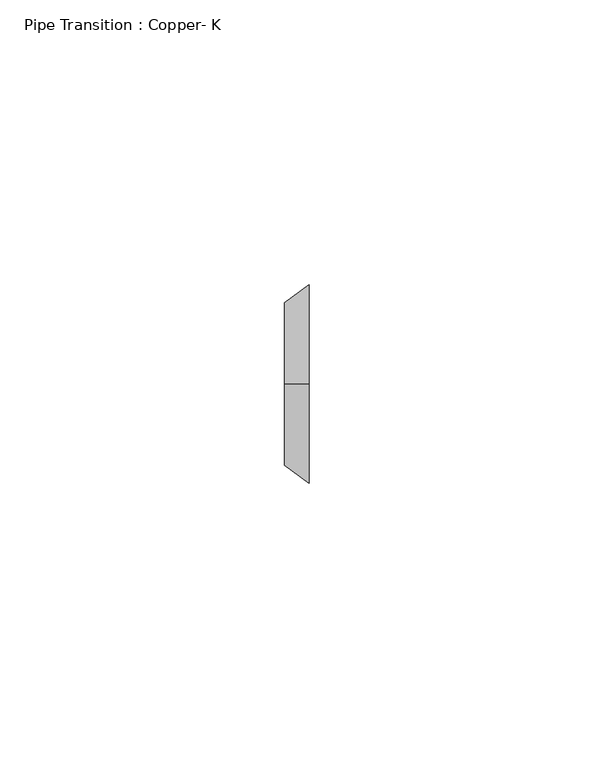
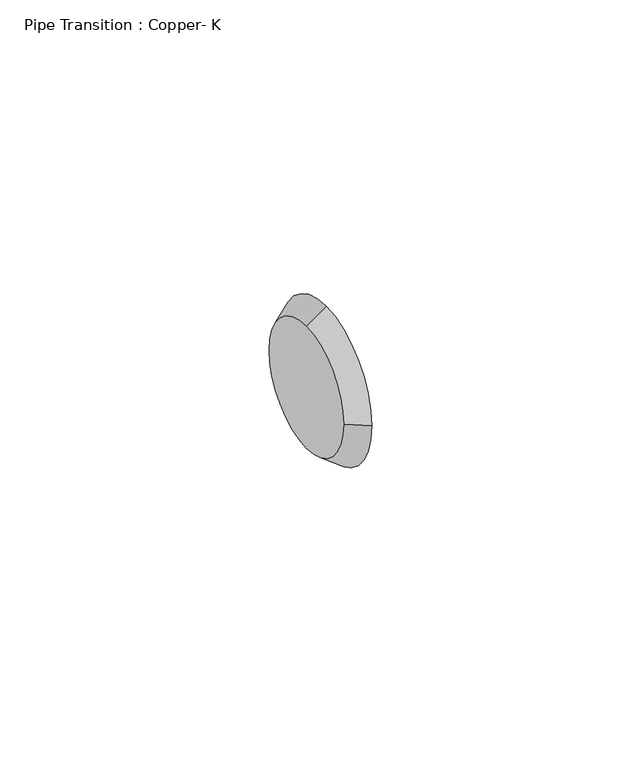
"""IFC4 building model written with IfcOpenShell, lengths in millimetres: pipe fitting geometry, Pipe Transition : Copper- K."""

import ifcopenshell
import ifcopenshell.guid

model = None  # the IFC model being written
_history = None  # IfcOwnerHistory: only IFC2X3 demands one
_inside = {}  # id of a spatial element -> (the spatial element, [elements in it])
_under = {}  # id of a project, library or spatial element -> (it, [spatial elements below it])
_declared = {}  # id of a project -> (the project, [libraries it declares])
_typed = {}  # id of a type object -> (the type object, [elements of that type])
_made_of = {}  # id of a material, layer set ... -> (it, [elements and type objects made of it])


def new_model(schema):
    """Start an empty IFC model of exactly this schema.

    Asked for "IFC4X3", IfcOpenShell would pick the latest addendum, in which some entities
    have other attributes; the version numbers below select the first issue.
    IFC2X3 requires an IfcOwnerHistory on every rooted entity: one is made here for all.
    """
    global model, _history
    if schema == "IFC4X3":
        model = ifcopenshell.file(schema_version=(4, 3, 0, 0))
    else:
        model = ifcopenshell.file(schema=schema)
    _inside.clear()
    _under.clear()
    _declared.clear()
    _typed.clear()
    _made_of.clear()
    _history = None
    if model.schema == "IFC2X3":
        org = make("IfcOrganization", Name="unknown")
        user = make(
            "IfcPersonAndOrganization",
            ThePerson=make("IfcPerson", FamilyName="unknown"),
            TheOrganization=org,
        )
        app = make(
            "IfcApplication",
            ApplicationDeveloper=org,
            Version="unknown",
            ApplicationFullName="unknown",
            ApplicationIdentifier="unknown",
        )
        _history = make(
            "IfcOwnerHistory",
            OwningUser=user,
            OwningApplication=app,
            ChangeAction="ADDED",
            CreationDate=0,
        )
    return model


def make(cls, **values):
    """One entity of the class cls with the attributes given. An attribute that is None is left unset."""
    return model.create_entity(
        cls, **{name: value for name, value in values.items() if value is not None}
    )


def rooted(cls, **values):
    """An entity with a GlobalId (a new one), such as an element, a storey or a relation."""
    return make(cls, GlobalId=ifcopenshell.guid.new(), OwnerHistory=_history, **values)


def si_unit(unit_type, name, prefix=None):
    """IfcSIUnit, for example si_unit("LENGTHUNIT", "METRE", prefix="MILLI")."""
    return make("IfcSIUnit", UnitType=unit_type, Prefix=prefix, Name=name)


def assignment(units):
    """IfcUnitAssignment: the units of a project."""
    return None if units is None else make("IfcUnitAssignment", Units=units)


def point(xyz):
    """IfcCartesianPoint."""
    return None if xyz is None else make("IfcCartesianPoint", Coordinates=xyz)


def direction(xyz):
    """IfcDirection."""
    return None if xyz is None else make("IfcDirection", DirectionRatios=xyz)


def frame(location, z_axis=None, x_axis=None):
    """IfcAxis2Placement3D, a coordinate frame: its origin and axes. An axis left out is left unset."""
    return make(
        "IfcAxis2Placement3D",
        Location=point(location),
        Axis=direction(z_axis),
        RefDirection=direction(x_axis),
    )


def origin():
    """The frame at (0, 0, 0) with its axes left unset."""
    return frame((0.0, 0.0, 0.0))


def place(relative_to, where):
    """IfcLocalPlacement: puts the frame where relative to a parent placement (None: the world)."""
    return make(
        "IfcLocalPlacement", PlacementRelTo=relative_to, RelativePlacement=where
    )


def context(
    kind, dimensions, precision=None, world=None, true_north=None, identifier=None
):
    """IfcGeometricRepresentationContext, for example the 3D "Model" context."""
    return make(
        "IfcGeometricRepresentationContext",
        ContextIdentifier=identifier,
        ContextType=kind,
        CoordinateSpaceDimension=dimensions,
        Precision=precision,
        WorldCoordinateSystem=world,
        TrueNorth=true_north,
    )


def project(units=None, contexts=None):
    """IfcProject with its units and contexts."""
    return rooted(
        "IfcProject",
        Name="project",
        RepresentationContexts=contexts,
        UnitsInContext=assignment(units),
    )


def spatial(cls, under=None, at=None, **own):
    """A site, building, storey or space (cls), placed at a placement, below another one or the project."""
    s = rooted(cls, ObjectPlacement=at, **own)
    if under is not None:
        _under.setdefault(under.id(), (under, []))[1].append(s)
    return s


def polyline(points):
    """IfcPolyline through the points."""
    return make("IfcPolyline", Points=[point(p) for p in points])


def circle_curve(where, radius):
    """IfcCircle in the frame where."""
    return make("IfcCircle", Position=where, Radius=radius)


def shape(context_of_items, identifier, shape_type, items):
    """IfcShapeRepresentation: the items that make up one representation, for example the "Body"."""
    return make(
        "IfcShapeRepresentation",
        ContextOfItems=context_of_items,
        RepresentationIdentifier=identifier,
        RepresentationType=shape_type,
        Items=items,
    )


def source(mapping_origin, context_of_items, identifier, shape_type, items):
    """IfcRepresentationMap: a shape defined once, which mapped items show again and again."""
    return make(
        "IfcRepresentationMap",
        MappingOrigin=mapping_origin,
        MappedRepresentation=shape(context_of_items, identifier, shape_type, items),
    )


def transform(
    local_origin,
    x_axis=None,
    y_axis=None,
    z_axis=None,
    scale=None,
    scale2=None,
    scale3=None,
    uniform=True,
):
    """IfcCartesianTransformationOperator3D, or its non-uniform kind. x_axis, y_axis, z_axis: its Axis1, 2, 3."""
    if uniform:
        return make(
            "IfcCartesianTransformationOperator3D",
            Axis1=direction(x_axis),
            Axis2=direction(y_axis),
            LocalOrigin=point(local_origin),
            Scale=scale,
            Axis3=direction(z_axis),
        )
    return make(
        "IfcCartesianTransformationOperator3DnonUniform",
        Axis1=direction(x_axis),
        Axis2=direction(y_axis),
        LocalOrigin=point(local_origin),
        Scale=scale,
        Axis3=direction(z_axis),
        Scale2=scale2,
        Scale3=scale3,
    )


def mapped(mapping_source, mapping_target):
    """IfcMappedItem: shows the shape of a source again, moved by a transform."""
    return make(
        "IfcMappedItem", MappingSource=mapping_source, MappingTarget=mapping_target
    )


def made_of(thing, what):
    """Note that an element or type object is made of a material, layer set ...; save() writes the relation."""
    if what is not None:
        _made_of.setdefault(what.id(), (what, []))[1].append(thing)
    return thing


def element(
    cls,
    number,
    at=None,
    inside=None,
    cuts=None,
    type_object=None,
    material=None,
    context=None,
    identifier="Body",
    shape_type=None,
    held_by="IfcProductDefinitionShape",
    body=None,
    shapes=None,
    **own,
):
    """One element of the class cls, such as IfcWall. Its Tag is "e" and its number.

    at: its placement. inside: the storey or other place that contains it. cuts: it is an
    opening in that element (IfcRelVoidsElement). A single representation is given by context,
    identifier, shape_type and body (its items); several are given by shapes. held_by: the class
    of the entity that holds the representations. save() writes the other relations.
    """
    e = rooted(cls, Tag="e%d" % number, ObjectPlacement=at, **own)
    if body is not None:
        shapes = [shape(context, identifier, shape_type, body)]
    if shapes is not None:
        e.Representation = make(held_by, Representations=shapes)
    if inside is not None:
        _inside.setdefault(inside.id(), (inside, []))[1].append(e)
    if cuts is not None:
        rooted(
            "IfcRelVoidsElement", RelatingBuildingElement=cuts, RelatedOpeningElement=e
        )
    if type_object is not None:
        _typed.setdefault(type_object.id(), (type_object, []))[1].append(e)
    return made_of(e, material)


def aggregate(whole, parts):
    """IfcRelAggregates: a whole, such as a stair, and the parts it consists of."""
    return rooted("IfcRelAggregates", RelatingObject=whole, RelatedObjects=parts)


def save(model, path):
    """Write the relations noted so far, then the file.

    IfcRelAggregates (storeys below a building ...), IfcRelContainedInSpatialStructure (elements
    in a storey), IfcRelDefinesByType, IfcRelAssociatesMaterial and IfcRelDeclares: one each for
    every whole, place, type object, material and project.
    """
    for whole, parts in _under.values():
        aggregate(whole, parts)
    for where, things in _inside.values():
        rooted(
            "IfcRelContainedInSpatialStructure",
            RelatedElements=things,
            RelatingStructure=where,
        )
    for kind, things in _typed.values():
        rooted("IfcRelDefinesByType", RelatedObjects=things, RelatingType=kind)
    for what, things in _made_of.values():
        rooted("IfcRelAssociatesMaterial", RelatedObjects=things, RelatingMaterial=what)
    for by, libraries in _declared.values():
        rooted("IfcRelDeclares", RelatingContext=by, RelatedDefinitions=libraries)
    model.write(path)


def plane_surface(at):
    """IfcPlane: the flat surface through the origin of the frame at, square to its z axis."""
    return make("IfcPlane", Position=at)


def revolved_surface(curve, axis_point, axis_direction):
    """IfcSurfaceOfRevolution: the curve turned about the line through axis_point along axis_direction."""
    return make(
        "IfcSurfaceOfRevolution",
        SweptCurve=make("IfcArbitraryOpenProfileDef", ProfileType="CURVE", Curve=curve),
        AxisPosition=make("IfcAxis1Placement", Location=point(axis_point), Axis=direction(axis_direction)),
    )


def advanced_brep(points, edges, surfaces, faces):
    """IfcAdvancedBrep: a solid bounded by faces that lie on surfaces and meet in shared edges.

    An edge is (start, end): straight between two places in points (the first is 0);
    or (start, end, curve); or (start, end, curve, False) where it runs against its curve.
    A face is (place in surfaces, loops), or (place, loops, False) where it looks against
    its surface's normal. A loop lists edges by number (the first is 1), with a minus sign
    where the edge is run from its end to its start. The first loop is the outer one.
    """
    corners = [point(p) for p in points]
    vertices = [make("IfcVertexPoint", VertexGeometry=c) for c in corners]
    made = []
    for start, end, *more in edges:
        made.append(
            make(
                "IfcEdgeCurve",
                EdgeStart=vertices[start],
                EdgeEnd=vertices[end],
                EdgeGeometry=more[0] if more else make("IfcPolyline", Points=[corners[start], corners[end]]),
                SameSense=more[1] if len(more) > 1 else True,
            )
        )
    hull = []
    for where, loops, *sense in faces:
        bounds = []
        for j, loop in enumerate(loops):
            ring = [make("IfcOrientedEdge", EdgeElement=made[abs(k) - 1], Orientation=k > 0) for k in loop]
            bounds.append(
                make(
                    "IfcFaceOuterBound" if j == 0 else "IfcFaceBound",
                    Bound=make("IfcEdgeLoop", EdgeList=ring),
                    Orientation=True,
                )
            )
        hull.append(make("IfcAdvancedFace", Bounds=bounds, FaceSurface=surfaces[where], SameSense=sense[0] if sense else True))
    return make("IfcAdvancedBrep", Outer=make("IfcClosedShell", CfsFaces=hull))


def pipe_transition_copper_k_c08627ba(model_context):
    return source(origin(), model_context, "Body", "AdvancedBrep", [
        advanced_brep(
        [(4.365625, 0.0, 17.4625), (4.365625, -17.4625, 0.0), (4.365625, 0.0, -17.4625), (4.365625, 17.4625, 0.0), (0.0, 0.0, 14.2875), (0.0, 14.2875, 0.0), (0.0, 0.0, -14.2875), (0.0, -14.2875, 0.0)],
        [
            (0, 1, circle_curve(frame((4.365625, 0.0, 0.0), z_axis=(1.0, 0.0, 0.0), x_axis=(0.0, -1.0, 0.0)), 17.4625)),
            (1, 2, circle_curve(frame((4.365625, 0.0, 0.0), z_axis=(1.0, 0.0, 0.0), x_axis=(0.0, 0.0, -1.0)), 17.4625)),
            (2, 3, circle_curve(frame((4.365625, 0.0, 0.0), z_axis=(1.0, 0.0, 0.0), x_axis=(0.0, 1.0, 0.0)), 17.4625)),
            (3, 0, circle_curve(frame((4.365625, 0.0, 0.0), z_axis=(1.0, 0.0, 0.0), x_axis=(0.0, 0.0, 1.0)), 17.4625)),
            (4, 5, circle_curve(frame((0.0, 0.0, 0.0), z_axis=(-1.0, 0.0, 0.0), x_axis=(0.0, 0.0, 1.0)), 14.2875)),
            (5, 6, circle_curve(frame((0.0, 0.0, 0.0), z_axis=(-1.0, 0.0, 0.0), x_axis=(0.0, 1.0, 0.0)), 14.2875)),
            (6, 7, circle_curve(frame((0.0, 0.0, 0.0), z_axis=(-1.0, 0.0, 0.0), x_axis=(0.0, 0.0, -1.0)), 14.2875)),
            (7, 4, circle_curve(frame((0.0, 0.0, 0.0), z_axis=(-1.0, 0.0, 0.0), x_axis=(0.0, -1.0, 0.0)), 14.2875)),
            (4, 0),
            (3, 5),
            (2, 6),
            (1, 7),
        ],
        [
            plane_surface(frame((4.365625, 0.0, 0.0), z_axis=(1.0, 0.0, 0.0), x_axis=(0.0, 1.0, 0.0))),
            plane_surface(frame((0.0, 0.0, 0.0), z_axis=(-1.0, 0.0, 0.0), x_axis=(0.0, 1.0, 0.0))),
            revolved_surface(polyline([(0.0, 0.0, 14.2875), (4.365624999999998, 0.0, 17.4625)]), (-19.6453125, 0.0, 0.0), (1.0, 0.0, 0.0)),
            revolved_surface(polyline([(0.0, 14.2875, 0.0), (4.365624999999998, 17.4625, 0.0)]), (-19.6453125, 0.0, 0.0), (1.0, 0.0, 0.0)),
            revolved_surface(polyline([(0.0, 0.0, -14.2875), (4.365624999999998, 0.0, -17.4625)]), (-19.6453125, 0.0, 0.0), (1.0, 0.0, 0.0)),
            revolved_surface(polyline([(0.0, -14.2875, 0.0), (4.365624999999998, -17.4625, 0.0)]), (-19.6453125, 0.0, 0.0), (1.0, 0.0, 0.0)),
        ],
        [
            (0, [[1, 2, 3, 4]]),
            (1, [[5, 6, 7, 8]]),
            (2, [[9, -4, 10, -5]]),
            (3, [[-10, -3, 11, -6]]),
            (4, [[-11, -2, 12, -7]]),
            (5, [[-12, -1, -9, -8]]),
        ],
    ),
        advanced_brep(
        [(4.365625, 0.0, 17.4625), (4.365625, -17.4625, 0.0), (4.365625, 0.0, -17.4625), (4.365625, 17.4625, 0.0), (0.0, 0.0, 14.2875), (0.0, 14.2875, 0.0), (0.0, 0.0, -14.2875), (0.0, -14.2875, 0.0)],
        [
            (0, 1, circle_curve(frame((4.365625, 0.0, 0.0), z_axis=(1.0, 0.0, 0.0), x_axis=(0.0, -1.0, 0.0)), 17.4625)),
            (1, 2, circle_curve(frame((4.365625, 0.0, 0.0), z_axis=(1.0, 0.0, -2.9852811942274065e-12), x_axis=(-2.985212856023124e-12, 0.0, -1.0)), 17.4625)),
            (2, 3, circle_curve(frame((4.365625, 0.0, 0.0), z_axis=(1.0, 0.0, -1.8375554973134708e-12), x_axis=(0.0, 1.0, 0.0)), 17.4625)),
            (3, 0, circle_curve(frame((4.365625, 0.0, 0.0), z_axis=(1.0, 0.0, -1.9150692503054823e-12), x_axis=(1.9151419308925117e-12, 0.0, 1.0)), 17.4625)),
            (4, 5, circle_curve(frame((0.0, 0.0, 0.0), z_axis=(-1.0, 0.0, 1.9150692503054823e-12), x_axis=(1.9151419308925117e-12, 0.0, 1.0)), 14.2875)),
            (5, 6, circle_curve(frame((0.0, 0.0, 0.0), z_axis=(-1.0, 0.0, 1.8375554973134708e-12), x_axis=(0.0, 1.0, 0.0)), 14.2875)),
            (6, 7, circle_curve(frame((0.0, 0.0, 0.0), z_axis=(-1.0, 0.0, 2.9852811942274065e-12), x_axis=(-2.985212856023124e-12, 0.0, -1.0)), 14.2875)),
            (7, 4, circle_curve(frame((0.0, 0.0, 0.0), z_axis=(-1.0, 0.0, 0.0), x_axis=(0.0, -1.0, 0.0)), 14.2875)),
            (4, 0),
            (3, 5),
            (2, 6),
            (1, 7),
        ],
        [
            plane_surface(frame((4.365625, 0.0, 0.0), z_axis=(1.0, 0.0, 0.0), x_axis=(0.0, 1.0, 0.0))),
            plane_surface(frame((0.0, 0.0, 0.0), z_axis=(-1.0, 0.0, 0.0), x_axis=(0.0, 1.0, 0.0))),
            revolved_surface(polyline([(0.0, 0.0, 14.2875), (4.365625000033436, 0.0, 17.462500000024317)]), (-19.6453125, 0.0, 0.0), (1.0, 0.0, -1.9150692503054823e-12)),
            revolved_surface(polyline([(0.0, 14.2875, 0.0), (4.3656250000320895, 17.462500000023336, 0.0)]), (-19.6453125, 0.0, 0.0), (1.0, 0.0, -1.8375554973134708e-12)),
            revolved_surface(polyline([(-4.2650327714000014e-11, 0.0, -14.287499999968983), (4.365624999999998, 0.0, -17.4625)]), (-19.6453125, 0.0, 0.0), (1.0, 0.0, -2.9852811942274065e-12)),
            revolved_surface(polyline([(0.0, -14.2875, 0.0), (4.365624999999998, -17.4625, 0.0)]), (-19.6453125, 0.0, 0.0), (1.0, 0.0, 0.0)),
        ],
        [
            (0, [[1, 2, 3, 4]]),
            (1, [[5, 6, 7, 8]]),
            (2, [[9, -4, 10, -5]]),
            (3, [[-10, -3, 11, -6]]),
            (4, [[-11, -2, 12, -7]]),
            (5, [[-12, -1, -9, -8]]),
        ],
    ),
    ])


if __name__ == "__main__":
    model = new_model("IFC4")
    model_context = context("Model", 3, world=origin())
    ifc_project = project(units=[si_unit("LENGTHUNIT", "METRE", prefix="MILLI")], contexts=[model_context])
    site = spatial("IfcSite", under=ifc_project)
    building = spatial("IfcBuilding", under=site)
    placement = place(None, origin())
    pipe_transition_copper_k_shape = pipe_transition_copper_k_c08627ba(model_context)
    element("IfcPipeFitting", 1, ObjectType="Pipe Transition : Copper- K", at=placement, inside=building, context=model_context, shape_type="MappedRepresentation", body=[
        mapped(pipe_transition_copper_k_shape, transform((0.0, 0.0, 0.0), x_axis=(1.0, 0.0, 0.0), y_axis=(0.0, 1.0, 0.0), z_axis=(0.0, 0.0, 1.0))),
    ])
    save(model, "model.ifc")
